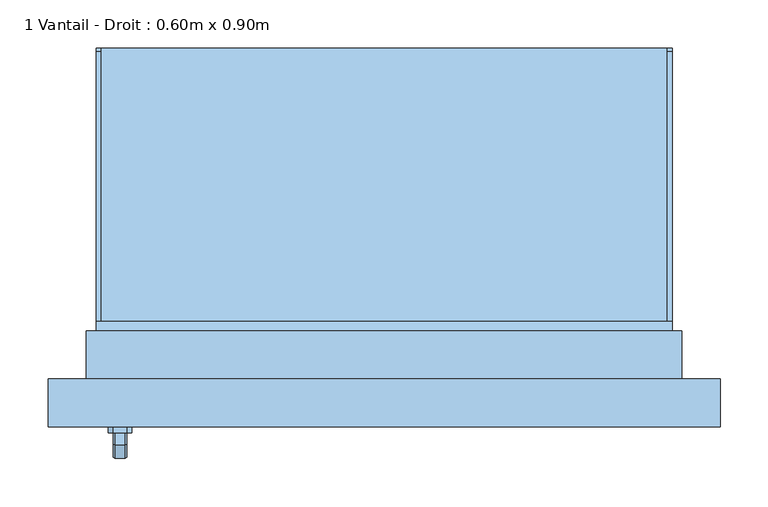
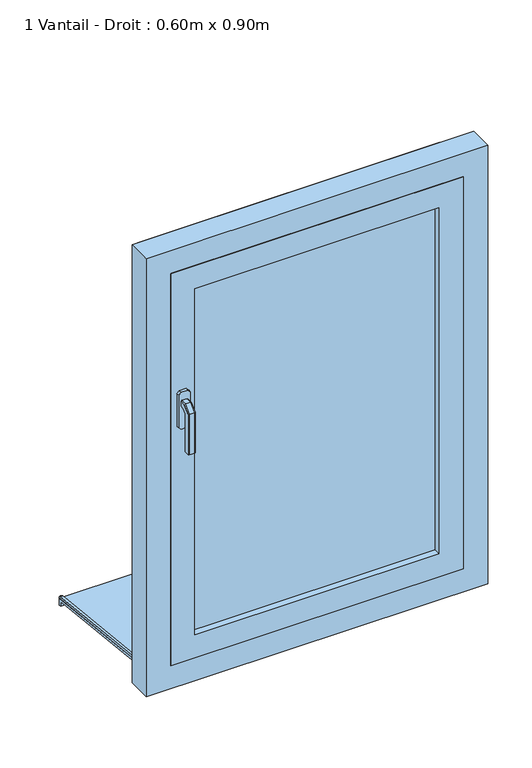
"""IFC4 building model written with IfcOpenShell, lengths in millimetres: window geometry, 1 Vantail - Droit : 0.60m x 0.90m."""

from ifc_helpers import new_model, si_unit, point, frame, frame_2d, origin, place, context, project, spatial, polyline, circle_curve, trimmed, segment, composite_curve, outline, extrude, faceted_brep, source, transform, mapped, element, save


def window_1_vantail_droit_0_60m_x_0_90m_8d029caf(model_context):
    return source(origin(), model_context, "Body", "SolidModel", [
        faceted_brep([(-269.3539903, -196.0, 1422.0339292), (-267.9660708, -196.0, 1420.6460097), (-267.9660708, -196.0, 1409.3323012), (-269.3323012, -196.0, 1407.9660708), (-280.6676988, -196.0, 1407.9660708), (-282.0339292, -196.0, 1409.3323012), (-282.0339292, -196.0, 1420.6460097), (-280.6460097, -196.0, 1422.0339292), (-269.3539903, -208.9135489, 1422.0339292), (-267.9660708, -208.3386538, 1420.6460097), (-267.9660708, -221.6460097, 1407.3386538), (-267.9660708, -221.6460097, 1320.0), (-267.9660708, -210.3323012, 1320.0), (-267.9660708, -210.3323012, 1402.6523623), (-267.9660708, -203.6523623, 1409.3323012), (-269.3323012, -203.0864511, 1407.9660708), (-280.6676988, -203.0864511, 1407.9660708), (-282.0339292, -203.6523623, 1409.3323012), (-282.0339292, -210.3323012, 1402.6523623), (-282.0339292, -210.3323012, 1320.0), (-282.0339292, -221.6460097, 1320.0), (-282.0339292, -221.6460097, 1407.3386538), (-282.0339292, -208.3386538, 1420.6460097), (-280.6460097, -208.9135489, 1422.0339292), (-269.3539903, -223.0339292, 1407.9135489), (-269.3323012, -208.9660708, 1402.0864511), (-280.6676988, -208.9660708, 1402.0864511), (-280.6460097, -223.0339292, 1407.9135489), (-269.3539903, -223.0339292, 1320.0), (-280.6460097, -223.0339292, 1320.0), (-280.6676988, -208.9660708, 1320.0), (-269.3323012, -208.9660708, 1320.0)], [[[0, 1, 2, 3, 4, 5, 6, 7]], [[1, 0, 8, 9]], [[2, 1, 9, 10, 11, 12, 13, 14]], [[3, 2, 14, 15]], [[4, 3, 15, 16]], [[5, 4, 16, 17]], [[6, 5, 17, 18, 19, 20, 21, 22]], [[7, 6, 22, 23]], [[0, 7, 23, 8]], [[9, 8, 24, 10]], [[15, 14, 13, 25]], [[16, 15, 25, 26]], [[17, 16, 26, 18]], [[23, 22, 21, 27]], [[8, 23, 27, 24]], [[28, 29, 20, 19, 30, 31, 12, 11]], [[10, 24, 28, 11]], [[25, 13, 12, 31]], [[26, 25, 31, 30]], [[18, 26, 30, 19]], [[27, 21, 20, 29]], [[24, 27, 29, 28]]]),
        extrude(outline(polyline([(1440.0, -268.0), (1440.0, -282.0), (1435.0, -287.0), (1365.0, -287.0), (1360.0, -282.0), (1360.0, -268.0), (1365.0, -263.0), (1435.0, -263.0), (1440.0, -268.0)])), frame((0.0, -196.0, 0.0), z_axis=(0.0, 1.0, 0.0), x_axis=(0.0, 0.0, 1.0)), (0.0, 0.0, 1.0), 6.0),
        extrude(outline(polyline([(205.0, 757.1473777), (205.0, 741.5916612), (200.0, 742.1171824), (200.0, 752.4176871), (-110.0, 785.0), (-110.0, 800.0), (-105.0, 800.0), (-105.0, 789.7296906), (205.0, 757.1473777)])), frame((-300.0, 0.0, 0.0), z_axis=(1.0, 0.0, 0.0), x_axis=(0.0, 1.0, 0.0)), (0.0, 0.0, 1.0), 600.0),
        extrude(outline(composite_curve([segment(polyline([(205.0, 757.1473777), (-105.0, 789.7296906), (-105.0, 794.757232), (201.4181139, 762.5513905)]), True, "CONTINUOUS"), segment(trimmed(circle_curve(frame_2d((201.0, 758.5733029)), 4.0), [point((201.4181139, 762.5513905))], [point((205.0, 758.5733029))], False, "CARTESIAN"), True, "CONTINUOUS"), segment(polyline([(205.0, 758.5733029), (205.0, 757.1473777)]), True, "CONTINUOUS")], self_intersect=False)), frame((-300.0, 0.0, 0.0), z_axis=(1.0, 0.0, 0.0), x_axis=(0.0, 1.0, 0.0)), (0.0, 0.0, 1.0), 5.0),
        extrude(outline(composite_curve([segment(polyline([(205.0, 757.1473777), (-105.0, 789.7296906), (-105.0, 794.757232), (201.4181139, 762.5513905)]), True, "CONTINUOUS"), segment(trimmed(circle_curve(frame_2d((201.0, 758.5733029)), 4.0), [point((201.4181139, 762.5513905))], [point((205.0, 758.5733029))], False, "CARTESIAN"), True, "CONTINUOUS"), segment(polyline([(205.0, 758.5733029), (205.0, 757.1473777)]), True, "CONTINUOUS")], self_intersect=False)), frame((295.0, 0.0, 0.0), z_axis=(1.0, 0.0, 0.0), x_axis=(0.0, 1.0, 0.0)), (0.0, 0.0, 1.0), 5.0),
        extrude(outline(polyline([(-250.0, -164.0), (250.0, -164.0), (250.0, -176.0), (-250.0, -176.0), (-250.0, -164.0)])), frame((0.0, 0.0, 900.0), z_axis=(0.0, 0.0, 1.0), x_axis=(1.0, 0.0, 0.0)), (0.0, 0.0, 1.0), 750.0),
        extrude(outline(polyline([(850.0, 300.0), (1700.0, 300.0), (1700.0, -300.0), (850.0, -300.0), (850.0, 300.0)]), holes=[polyline([(900.0, -250.0), (1650.0, -250.0), (1650.0, 250.0), (900.0, 250.0), (900.0, -250.0)])]), frame((0.0, -190.0, 0.0), z_axis=(0.0, 1.0, 0.0), x_axis=(0.0, 0.0, 1.0)), (0.0, 0.0, 1.0), 40.0),
        faceted_brep([(-350.0, -190.0, 800.0), (-350.0, -140.0, 800.0), (-300.0, -140.0, 800.0), (-300.0, -90.0, 800.0), (300.0, -90.0, 800.0), (300.0, -140.0, 800.0), (350.0, -140.0, 800.0), (350.0, -190.0, 800.0), (-350.0, -190.0, 1750.0), (-350.0, -140.0, 1750.0), (350.0, -140.0, 1750.0), (300.0, -140.0, 839.3761425), (-300.0, -140.0, 839.3761425), (-285.0, -140.0, 1685.0), (-285.0, -140.0, 865.0), (285.0, -140.0, 865.0), (285.0, -140.0, 1685.0), (-300.0, -80.0, 823.2991909), (-300.0, -80.0, 795.0), (-300.0, -90.0, 795.0), (300.0, -90.0, 795.0), (300.0, -80.0, 795.0), (300.0, -80.0, 823.2991909), (350.0, -190.0, 1750.0), (300.0, -190.0, 1700.0), (300.0, -190.0, 850.0), (-300.0, -190.0, 850.0), (-300.0, -190.0, 1700.0), (-285.0, -150.0, 1685.0), (-285.0, -150.0, 865.0), (285.0, -150.0, 865.0), (285.0, -150.0, 1685.0), (300.0, -150.0, 1700.0), (-300.0, -150.0, 1700.0), (-300.0, -150.0, 850.0), (300.0, -150.0, 850.0)], [[[0, 1, 2, 3, 4, 5, 6, 7]], [[1, 0, 8, 9]], [[1, 9, 10, 6, 5, 11, 12, 2], [13, 14, 15, 16]], [[12, 17, 18, 19, 3, 2]], [[3, 19, 20, 4]], [[4, 20, 21, 22, 11, 5]], [[6, 10, 23, 7]], [[0, 7, 23, 8], [24, 25, 26, 27]], [[13, 28, 29, 14]], [[29, 30, 15, 14]], [[31, 16, 15, 30]], [[17, 12, 11, 22]], [[32, 33, 34, 35], [28, 31, 30, 29]], [[34, 33, 27, 26]], [[26, 25, 35, 34]], [[24, 32, 35, 25]], [[18, 17, 22, 21]], [[19, 18, 21, 20]], [[13, 16, 31, 28]], [[33, 32, 24, 27]], [[10, 9, 8, 23]]]),
        extrude(outline(polyline([(800.0, -310.0), (800.0, -300.0), (1700.0, -300.0), (1700.0, 300.0), (800.0, 300.0), (800.0, 310.0), (1710.0, 310.0), (1710.0, -310.0), (800.0, -310.0)])), frame((0.0, -140.0, 0.0), z_axis=(0.0, 1.0, 0.0), x_axis=(0.0, 0.0, 1.0)), (0.0, 0.0, 1.0), 50.0),
    ])


if __name__ == "__main__":
    model = new_model("IFC4")
    model_context = context("Model", 3, world=origin())
    ifc_project = project(units=[si_unit("LENGTHUNIT", "METRE", prefix="MILLI")], contexts=[model_context])
    site = spatial("IfcSite", under=ifc_project)
    building = spatial("IfcBuilding", under=site)
    placement = place(None, origin())
    window_1_vantail_droit_0_60m_x_0_90m_shape = window_1_vantail_droit_0_60m_x_0_90m_8d029caf(model_context)
    element("IfcWindow", 1, ObjectType="1 Vantail - Droit : 0.60m x 0.90m", at=placement, inside=building, context=model_context, shape_type="MappedRepresentation", body=[
        mapped(window_1_vantail_droit_0_60m_x_0_90m_shape, transform((0.0, 0.0, 0.0), x_axis=(1.0, 0.0, 0.0), y_axis=(0.0, 1.0, 0.0), z_axis=(0.0, 0.0, 1.0))),
    ])
    save(model, "model.ifc")
